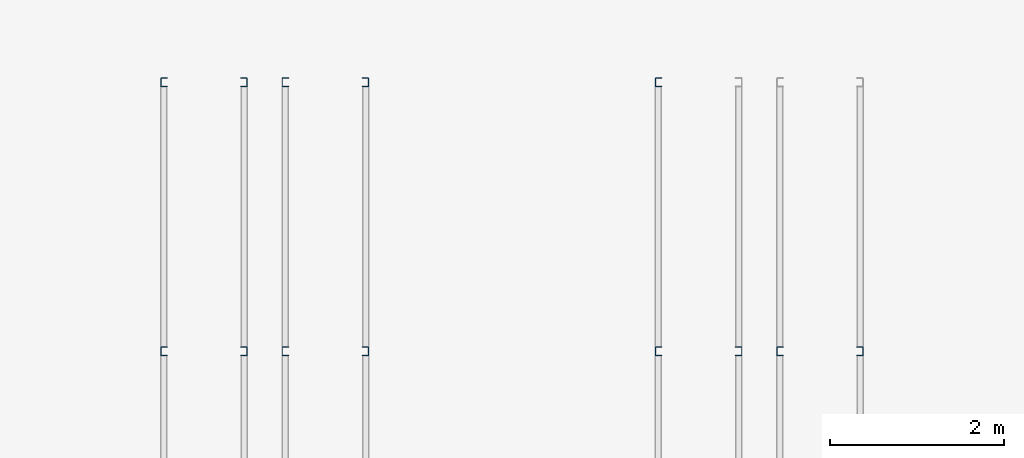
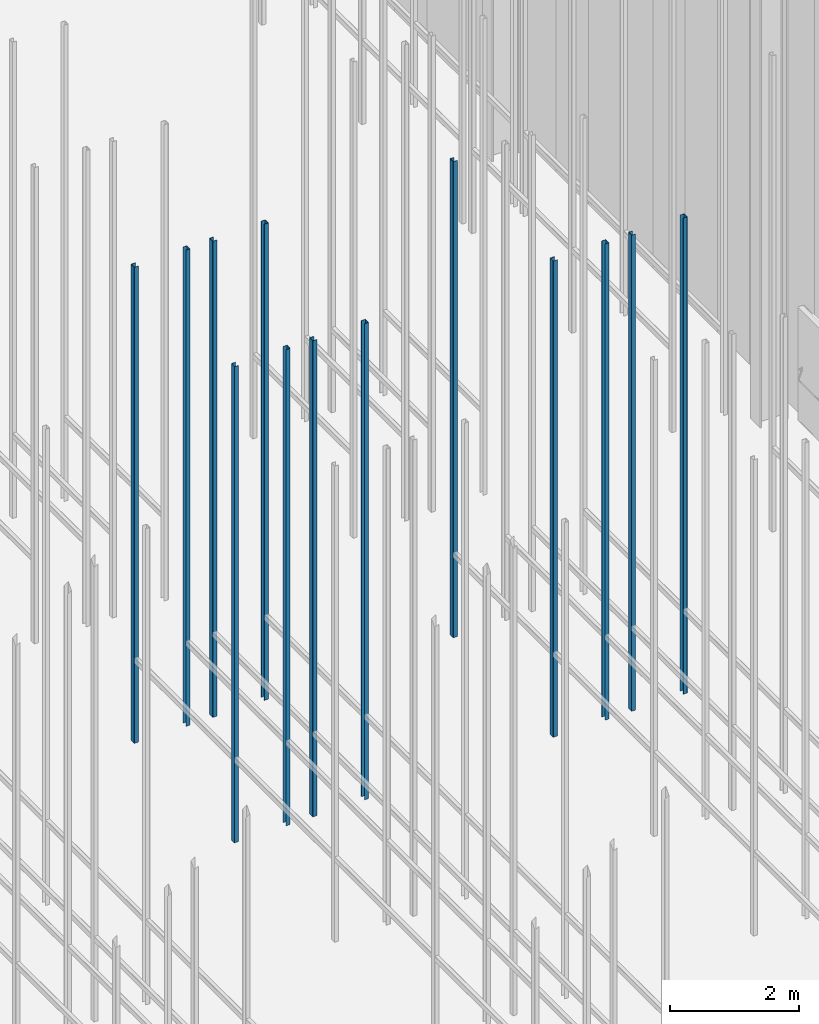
# One storey, part 29 of 302: 13 columns.
"""IFC2X3 building model written with IfcOpenShell, lengths in metres."""

from ifc_helpers import new_model, entity, si_unit, converted_unit, derived_unit, direction, frame, frame_2d, origin, place, context, subcontext, project, spatial, polyline, circle_curve, parameter, trimmed, segment, composite_curve, outline, extrude, source, transform, mapped, material, type_object, type_shapes, element, save


model = new_model("IFC2X3")

# Units and contexts
model_context = context("Model", 3, precision=1e-05, world=origin(), true_north=direction((6.12303176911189e-17, 1.0)))
body_context = subcontext(model_context, "Body", "Model", "MODEL_VIEW")
ifc_project = project(units=[si_unit("LENGTHUNIT", "METRE"), si_unit("AREAUNIT", "SQUARE_METRE"), si_unit("VOLUMEUNIT", "CUBIC_METRE"), converted_unit("PLANEANGLEUNIT", "DEGREE", entity("IfcRatioMeasure", 0.0174532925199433), si_unit("PLANEANGLEUNIT", "RADIAN"), dimensions=[0, 0, 0, 0, 0, 0, 0]), si_unit("MASSUNIT", "GRAM", prefix="KILO"), derived_unit("MASSDENSITYUNIT", [(si_unit("MASSUNIT", "GRAM", prefix="KILO"), 1), (si_unit("LENGTHUNIT", "METRE"), -3)]), derived_unit("MOMENTOFINERTIAUNIT", [(si_unit("LENGTHUNIT", "METRE"), 4)]), si_unit("TIMEUNIT", "SECOND"), si_unit("FREQUENCYUNIT", "HERTZ"), si_unit("THERMODYNAMICTEMPERATUREUNIT", "DEGREE_CELSIUS"), derived_unit("THERMALTRANSMITTANCEUNIT", [(si_unit("MASSUNIT", "GRAM", prefix="KILO"), 1), (si_unit("THERMODYNAMICTEMPERATUREUNIT", "KELVIN"), -1), (si_unit("TIMEUNIT", "SECOND"), -3)]), derived_unit("VOLUMETRICFLOWRATEUNIT", [(si_unit("LENGTHUNIT", "METRE"), 3), (si_unit("TIMEUNIT", "SECOND"), -1)]), si_unit("ELECTRICCURRENTUNIT", "AMPERE"), si_unit("ELECTRICVOLTAGEUNIT", "VOLT"), si_unit("POWERUNIT", "WATT"), si_unit("FORCEUNIT", "NEWTON", prefix="KILO"), si_unit("ILLUMINANCEUNIT", "LUX"), si_unit("LUMINOUSFLUXUNIT", "LUMEN"), si_unit("LUMINOUSINTENSITYUNIT", "CANDELA"), derived_unit("USERDEFINED", [(si_unit("MASSUNIT", "GRAM", prefix="KILO"), -1), (si_unit("LENGTHUNIT", "METRE"), -2), (si_unit("TIMEUNIT", "SECOND"), 3), (si_unit("LUMINOUSFLUXUNIT", "LUMEN"), 1)]), derived_unit("LINEARVELOCITYUNIT", [(si_unit("LENGTHUNIT", "METRE"), 1), (si_unit("TIMEUNIT", "SECOND"), -1)]), si_unit("PRESSUREUNIT", "PASCAL"), derived_unit("USERDEFINED", [(si_unit("LENGTHUNIT", "METRE"), -2), (si_unit("MASSUNIT", "GRAM", prefix="KILO"), 1), (si_unit("TIMEUNIT", "SECOND"), -2)]), derived_unit("LINEARFORCEUNIT", [(si_unit("MASSUNIT", "GRAM", prefix="KILO"), 1), (si_unit("LENGTHUNIT", "METRE"), 1), (si_unit("TIMEUNIT", "SECOND"), -2), (si_unit("LENGTHUNIT", "METRE"), -1)]), derived_unit("PLANARFORCEUNIT", [(si_unit("MASSUNIT", "GRAM", prefix="KILO"), 1), (si_unit("LENGTHUNIT", "METRE"), 1), (si_unit("TIMEUNIT", "SECOND"), -2), (si_unit("LENGTHUNIT", "METRE"), -2)])], contexts=[model_context])

# Site, building, storey
site_placement = place(None, origin())
site = spatial("IfcSite", under=ifc_project, at=site_placement, Name="Default", CompositionType="ELEMENT")
building_placement = place(site_placement, origin())
building = spatial("IfcBuilding", under=site, at=building_placement, CompositionType="ELEMENT")
storey_placement = place(building_placement, frame((0.0, 0.0, -1.3)))
storey = spatial("IfcBuildingStorey", under=building, at=storey_placement, Name="00_EG", CompositionType="ELEMENT", Elevation=-1.3)

# Columns
ifc_material = material(Name="Metall - Baustahl S235")
column_type_1 = type_object("IfcColumnType", Name="Leichter Stahl Schlossschrauben Stütze:C 100", PredefinedType="COLUMN", material=ifc_material)
shared_shape_1 = source(origin(), body_context, "Body", "SweptSolid", [
    extrude(outline(composite_curve([segment(polyline([(-0.0469749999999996, -0.0499999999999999), (0.0214500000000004, -0.0499999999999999)]), True, "CONTINUOUS"), segment(trimmed(circle_curve(frame_2d((0.0214500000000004, -0.0434249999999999), x_axis=(0.0, -1.0)), 0.00657500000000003), [parameter(0.0)], [parameter(89.9999999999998)], True, "PARAMETER"), True, "CONTINUOUS"), segment(polyline([(0.0280250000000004, -0.0434249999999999), (0.0280250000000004, 0.0434250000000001)]), True, "CONTINUOUS"), segment(trimmed(circle_curve(frame_2d((0.0214500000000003, 0.0434250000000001), x_axis=(1.0, 0.0)), 0.0065750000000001), [parameter(0.0)], [parameter(89.9999999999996)], True, "PARAMETER"), True, "CONTINUOUS"), segment(polyline([(0.0214500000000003, 0.0500000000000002), (-0.0469750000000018, 0.0500000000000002)]), True, "CONTINUOUS"), segment(polyline([(-0.0469750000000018, 0.0500000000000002), (-0.0469750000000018, 0.0450000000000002)]), True, "CONTINUOUS"), segment(polyline([(-0.0469750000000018, 0.0450000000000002), (0.0214500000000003, 0.0450000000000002)]), True, "CONTINUOUS"), segment(trimmed(circle_curve(frame_2d((0.0214500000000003, 0.0434249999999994), x_axis=(0.0, 1.0)), 0.00157500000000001), [parameter(269.999999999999)], [parameter(0.0)], True, "PARAMETER"), False, "CONTINUOUS"), segment(polyline([(0.0230250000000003, 0.0434249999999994), (0.0230250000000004, -0.0434249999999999)]), True, "CONTINUOUS"), segment(trimmed(circle_curve(frame_2d((0.0214500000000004, -0.0434249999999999), x_axis=(1.0, 0.0)), 0.00157500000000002), [parameter(270.0)], [parameter(0.0)], True, "PARAMETER"), False, "CONTINUOUS"), segment(polyline([(0.0214500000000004, -0.0449999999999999), (-0.0469749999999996, -0.0449999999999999)]), True, "CONTINUOUS"), segment(polyline([(-0.0469749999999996, -0.0449999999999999), (-0.0469749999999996, -0.0499999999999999)]), True, "CONTINUOUS")], self_intersect=False)), frame((0.0499999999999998, 0.0280250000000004, -0.0300000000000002), z_axis=(0.0, 0.0, 1.0), x_axis=(0.0, -1.0, 0.0)), (0.0, 0.0, 1.0), 9.0),
])
type_shapes(column_type_1, [shared_shape_1])
for number, where, z_axis, x_axis in (
    (1, (-190.790111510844, 42.648088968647, 1.3), (0.0, 0.0, 1.0), (0.0, -1.0, 0.0)),
    (2, (-190.790111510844, 45.748088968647, 1.3), (0.0, 0.0, 1.0), (0.0, -1.0, 0.0)),
    (3, (-189.390111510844, 42.648088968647, 1.3), (0.0, 0.0, 1.0), (0.0, -1.0, 0.0)),
    (4, (-189.390111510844, 45.748088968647, 1.3), (0.0, 0.0, 1.0), (0.0, -1.0, 0.0)),
    (5, (-185.090111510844, 42.648088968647, 1.3), (0.0, 0.0, 1.0), (0.0, -1.0, 0.0)),
    (6, (-185.090111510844, 45.748088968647, 1.3), (0.0, 0.0, 1.0), (0.0, -1.0, 0.0)),
    (7, (-183.690111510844, 42.648088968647, 1.3), (0.0, 0.0, 1.0), (0.0, -1.0, 0.0)),
):
    element("IfcColumn", number, at=place(storey_placement, frame(where, z_axis=z_axis, x_axis=x_axis)), inside=storey, type_object=column_type_1, material=ifc_material, Name="Leichter Stahl Schlossschrauben Stütze:C 100", ObjectType="Leichter Stahl Schlossschrauben Stütze:C 100", context=body_context, shape_type="MappedRepresentation", body=[
        mapped(shared_shape_1, transform((0.0, 0.0, 0.0), scale=1.0)),
    ])
column_type_2 = type_object("IfcColumnType", Name="Leichter Stahl Schlossschrauben Stütze:C 100", PredefinedType="COLUMN", material=ifc_material)
shared_shape_2 = source(origin(), body_context, "Body", "SweptSolid", [
    extrude(outline(composite_curve([segment(polyline([(-0.0214500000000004, -0.0499999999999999), (0.0469749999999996, -0.0499999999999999)]), True, "CONTINUOUS"), segment(polyline([(0.0469749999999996, -0.0499999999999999), (0.0469749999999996, -0.0449999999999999)]), True, "CONTINUOUS"), segment(polyline([(0.0469749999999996, -0.0449999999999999), (-0.0214500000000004, -0.045)]), True, "CONTINUOUS"), segment(trimmed(circle_curve(frame_2d((-0.0214500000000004, -0.043425), x_axis=(0.0, -1.0)), 0.00157500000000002), [parameter(270.0)], [parameter(0.0)], True, "PARAMETER"), False, "CONTINUOUS"), segment(polyline([(-0.0230250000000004, -0.0434249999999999), (-0.0230250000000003, 0.0434249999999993)]), True, "CONTINUOUS"), segment(trimmed(circle_curve(frame_2d((-0.0214500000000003, 0.0434249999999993), x_axis=(-1.0, 0.0)), 0.00157500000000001), [parameter(269.999999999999)], [parameter(0.0)], True, "PARAMETER"), False, "CONTINUOUS"), segment(polyline([(-0.0214500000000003, 0.0450000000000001), (0.0469750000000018, 0.0450000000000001)]), True, "CONTINUOUS"), segment(polyline([(0.0469750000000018, 0.0450000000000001), (0.0469750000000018, 0.0500000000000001)]), True, "CONTINUOUS"), segment(polyline([(0.0469750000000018, 0.0500000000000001), (-0.0214500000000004, 0.0500000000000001)]), True, "CONTINUOUS"), segment(trimmed(circle_curve(frame_2d((-0.0214500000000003, 0.043425), x_axis=(0.0, 1.0)), 0.0065750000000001), [parameter(0.0)], [parameter(89.9999999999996)], True, "PARAMETER"), True, "CONTINUOUS"), segment(polyline([(-0.0280250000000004, 0.043425), (-0.0280250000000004, -0.043425)]), True, "CONTINUOUS"), segment(trimmed(circle_curve(frame_2d((-0.0214500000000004, -0.0434249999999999), x_axis=(-1.0, 0.0)), 0.00657500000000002), [parameter(0.0)], [parameter(89.9999999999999)], True, "PARAMETER"), True, "CONTINUOUS")], self_intersect=False)), frame((0.0499999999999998, -0.0280250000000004, -0.0300000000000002), z_axis=(0.0, 0.0, 1.0), x_axis=(0.0, -1.0, 0.0)), (0.0, 0.0, 1.0), 9.0),
])
type_shapes(column_type_2, [shared_shape_2])
for number, where, z_axis, x_axis in (
    (8, (-189.790111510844, 42.648088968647, 1.3), (0.0, 0.0, 1.0), (0.0, -1.0, 0.0)),
    (9, (-189.790111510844, 45.748088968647, 1.3), (0.0, 0.0, 1.0), (0.0, -1.0, 0.0)),
    (10, (-188.390111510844, 42.648088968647, 1.3), (0.0, 0.0, 1.0), (0.0, -1.0, 0.0)),
    (11, (-188.390111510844, 45.748088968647, 1.3), (0.0, 0.0, 1.0), (0.0, -1.0, 0.0)),
    (12, (-184.090111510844, 42.648088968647, 1.3), (0.0, 0.0, 1.0), (0.0, -1.0, 0.0)),
    (13, (-182.690111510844, 42.648088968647, 1.3), (0.0, 0.0, 1.0), (0.0, -1.0, 0.0)),
):
    element("IfcColumn", number, at=place(storey_placement, frame(where, z_axis=z_axis, x_axis=x_axis)), inside=storey, type_object=column_type_2, material=ifc_material, Name="Leichter Stahl Schlossschrauben Stütze:C 100", ObjectType="Leichter Stahl Schlossschrauben Stütze:C 100", context=body_context, shape_type="MappedRepresentation", body=[
        mapped(shared_shape_2, transform((0.0, 0.0, 0.0), scale=1.0)),
    ])

save(model, "model.ifc")
